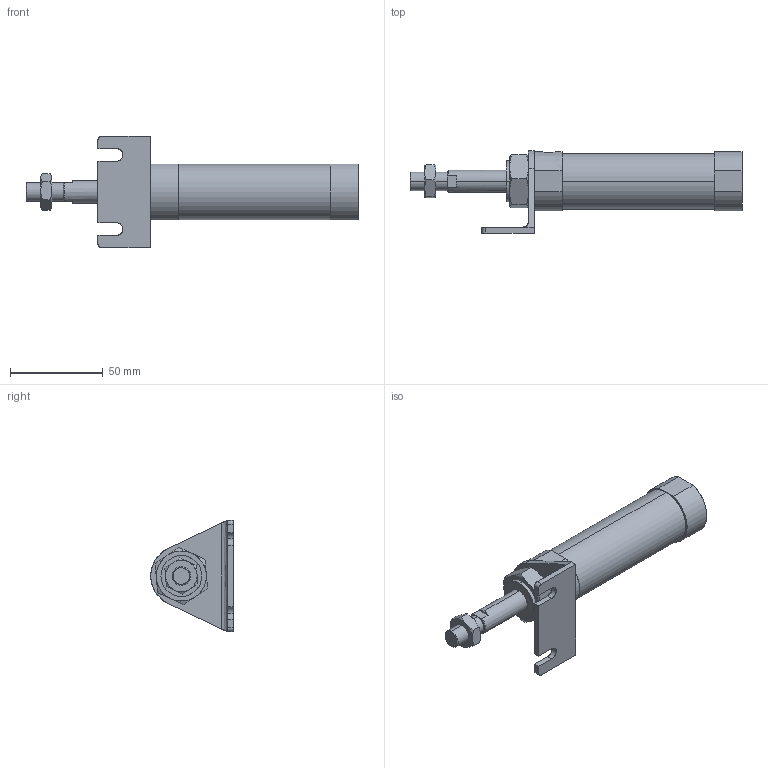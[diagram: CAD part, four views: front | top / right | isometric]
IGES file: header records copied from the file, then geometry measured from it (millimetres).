
Start section: SolidWorks IGES file using analytic representation for surfaces
Global section: file name: C:\Users\Toshiba\Desktop\JGND0-25-25-L.IGS; native system: SolidWorks 2014; preprocessor: SolidWorks 2014; author: Toshiba; date: 160804.100854; units: millimetre
Bounding box: 179 x 44.5 x 60 mm (x, y, z)
Surface area: 25457.9 mm2 (no closed solid volume)
Topology: 0 solids, 0 shells, 111 faces, 1846 edges, 1844 vertices
Faces by surface type: bspline 74, revolution 37
